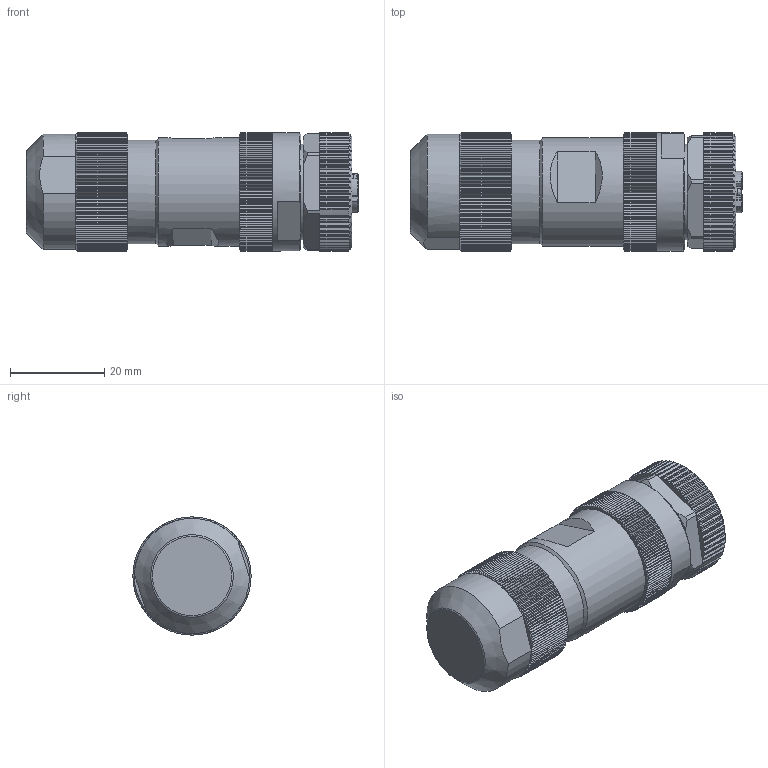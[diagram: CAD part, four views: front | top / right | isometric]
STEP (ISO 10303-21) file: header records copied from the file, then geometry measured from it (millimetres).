
FILE_DESCRIPTION(/* description */ (''),/* implementation_level */ '2;1');
FILE_NAME(/* name */ '99_0640_29_05_001_01.stp',/* time_stamp */ '2016-02-26T11:33:03+01:00',/* author */ (''),/* organization */ (''),/* preprocessor_version */ 'ST-DEVELOPER v14',/* originating_system */ 'SIEMENS PLM Software NX 8.0',/* authorisation */ '');
FILE_SCHEMA (('AUTOMOTIVE_DESIGN { 1 0 10303 214 3 1 1 1 }'));
Length unit declared in the file: millimetre
Products named in the file (1): cerl1BE00DC15gwe
Bounding box: 70.3 x 25 x 25 mm (x, y, z)
Volume: 29726.7 mm3; surface area: 8094.6 mm2
Topology: 1 solids, 2 shells, 1191 faces, 3464 edges, 2292 vertices
Faces by surface type: plane 837, cylinder 305, cone 20, torus 17, bspline 11, sphere 1
Full cylindrical faces by diameter (mm): 1.5 x1, 1.6 x4, 2.3 x4, 8.75 x2, 10.9 x1, 11.05 x1, 12.1 x1, 20.2 x1, 21.91 x1, 23 x1, 25 x1
Entity records: 41750 total; most frequent: CARTESIAN_POINT 11872, ORIENTED_EDGE 6814, DIRECTION 5540, EDGE_CURVE 3407, VERTEX_POINT 2272, AXIS2_PLACEMENT_3D 2001, LINE 1538, VECTOR 1538
